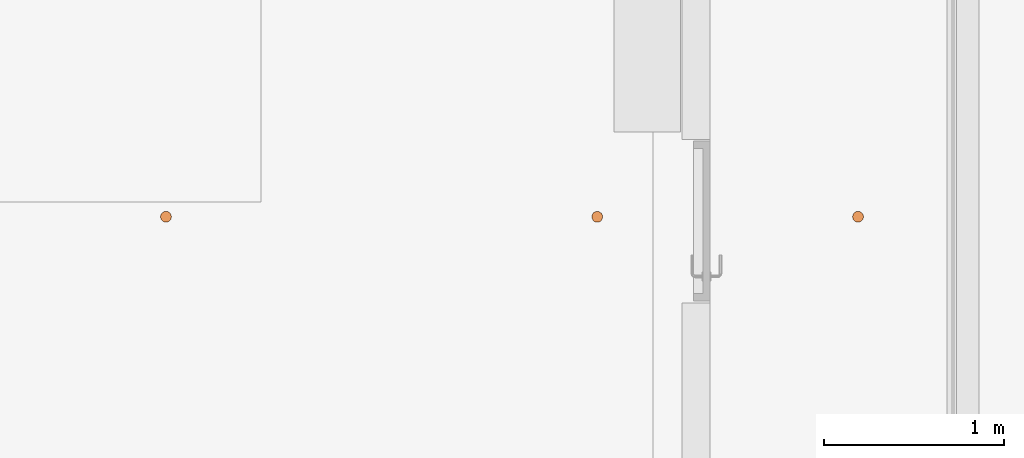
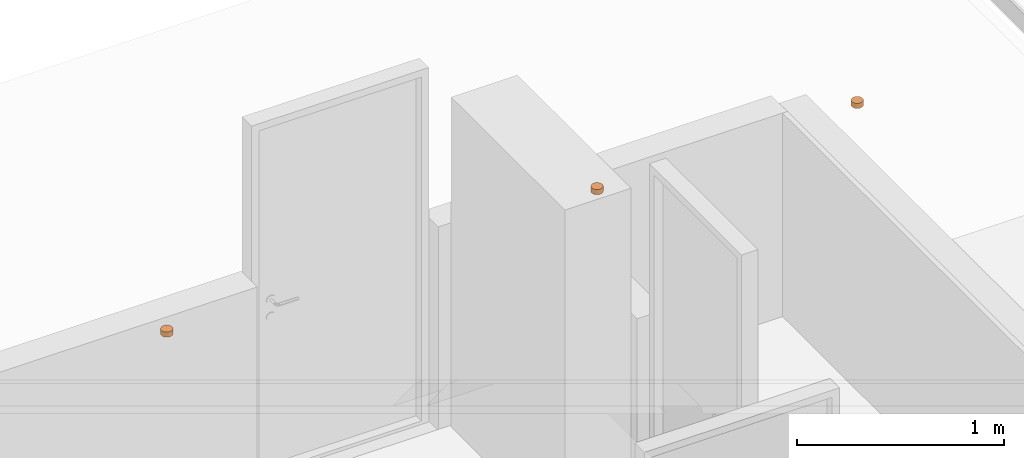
# One storey, part 15 of 16: 3 proxies.
"""IFC2X3 building model written with IfcOpenShell, lengths in millimetres."""

from ifc_helpers import new_model, entity, si_unit, converted_unit, derived_unit, direction, frame, frame_2d, origin, origin_with_axes, place, context, subcontext, project, spatial, circle, extrude, source, transform, mapped, material, type_object, element, save


model = new_model("IFC2X3")

# Units and contexts
model_context = context("Model", 3, precision=0.01, world=frame((0.0, 4.29681676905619e-09, 0.0)), true_north=direction((4.01073788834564e-13, 1.0)))
plan_context = context("Plan", 3, precision=0.01, world=frame((0.0, 4.29681676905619e-09, 0.0)), true_north=direction((4.01073788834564e-13, 1.0)))
body_context = subcontext(model_context, "Body", "Model", "MODEL_VIEW")
ifc_project = project(units=[converted_unit("PLANEANGLEUNIT", "DEGREE", entity("IfcPositiveLengthMeasure", 0.0174532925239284), si_unit("PLANEANGLEUNIT", "RADIAN"), dimensions=[0, 0, 0, 0, 0, 0, 0]), si_unit("AREAUNIT", "SQUARE_METRE"), si_unit("LENGTHUNIT", "METRE", prefix="MILLI"), si_unit("MASSUNIT", "GRAM", prefix="KILO"), si_unit("POWERUNIT", "WATT"), si_unit("PRESSUREUNIT", "PASCAL"), si_unit("FORCEUNIT", "NEWTON", prefix="KILO"), si_unit("ELECTRICCURRENTUNIT", "AMPERE"), si_unit("THERMODYNAMICTEMPERATUREUNIT", "DEGREE_CELSIUS"), si_unit("TIMEUNIT", "SECOND"), si_unit("VOLUMEUNIT", "CUBIC_METRE"), derived_unit("LINEARVELOCITYUNIT", [(si_unit("LENGTHUNIT", "METRE"), 1), (si_unit("TIMEUNIT", "SECOND"), -1)]), derived_unit("VOLUMETRICFLOWRATEUNIT", [(si_unit("VOLUMEUNIT", "CUBIC_METRE"), 1), (si_unit("TIMEUNIT", "SECOND"), -1)]), derived_unit("THERMALTRANSMITTANCEUNIT", [(si_unit("POWERUNIT", "WATT"), 1), (si_unit("THERMODYNAMICTEMPERATUREUNIT", "KELVIN"), -1), (si_unit("AREAUNIT", "SQUARE_METRE"), -1)])], contexts=[model_context, plan_context])

# Site, building, storey
site_placement = place(None, origin_with_axes())
site = spatial("IfcSite", under=ifc_project, at=site_placement, Name="ENGM", CompositionType="ELEMENT")
building_placement = place(site_placement, origin_with_axes())
building = spatial("IfcBuilding", under=site, at=building_placement, Name="TS", CompositionType="ELEMENT")
storey_placement = place(building_placement, frame((0.0, 0.0, 204000.0), z_axis=(0.0, 0.0, 1.0), x_axis=(1.0, 0.0, 0.0)))
storey = spatial("IfcBuildingStorey", under=building, at=storey_placement, Name="Nivå D", CompositionType="ELEMENT", Elevation=204000.0)

# Proxies
ifc_material = material(Name="<Unnamed>")
building_element_proxy_type = type_object("IfcBuildingElementProxyType", Name="V333 - Sprinkelhode:V333 - Sprinkelhode", PredefinedType="NOTDEFINED", material=ifc_material)
shared_shape = source(origin(), body_context, "Body", "SweptSolid", [
    extrude(circle(Radius=30.0, at=frame_2d((-6.55042322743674e-16, -4.84663372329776e-14), x_axis=(1.0, 0.0))), frame((0.0, 0.0, 2418.4)), (0.0, 0.0, 1.0), 29.9999999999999),
])
for number, where, z_axis, x_axis, name in (
    (1, (515550.000000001, 419133.845726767, -38.3999999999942), (0.0, 0.0, 1.0), (1.0, 0.0, 0.0), "V333 - Sprinkelhode:V333 - Sprinkelhode"),
    (2, (519401.250000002, 419133.845726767, -38.3999999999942), (0.0, 0.0, 1.0), (1.0, 0.0, 0.0), "V333 - Sprinkelhode:V333 - Sprinkelhode"),
    (3, (517950.000000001, 419133.845726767, -38.3999999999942), (0.0, 0.0, 1.0), (1.0, 0.0, 0.0), "V333 - Sprinkelhode:V333 - Sprinkelhode"),
):
    element("IfcBuildingElementProxy", number, at=place(storey_placement, frame(where, z_axis=z_axis, x_axis=x_axis)), inside=storey, type_object=building_element_proxy_type, material=ifc_material, Name=name, ObjectType="V333 - Sprinkelhode:V333 - Sprinkelhode", context=body_context, shape_type="MappedRepresentation", body=[
        mapped(shared_shape, transform((0.0, 0.0, 0.0), scale=1.0)),
    ])

save(model, "model.ifc")
